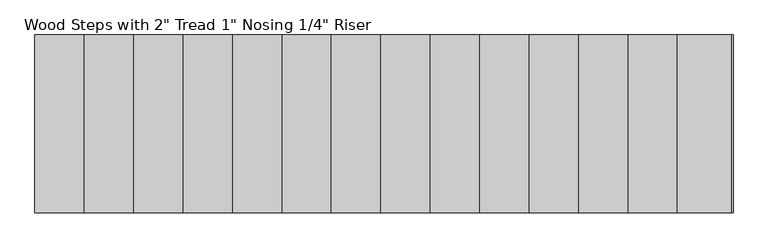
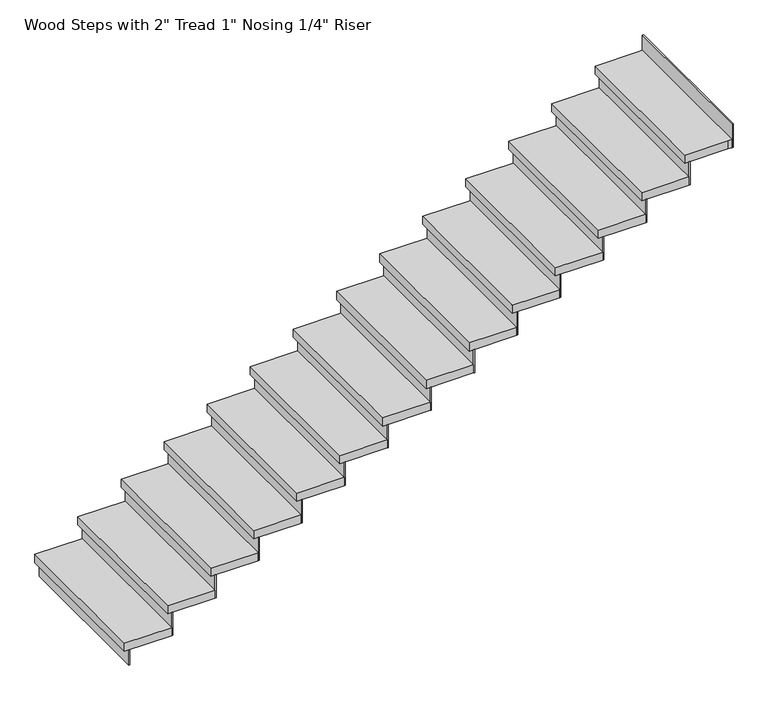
"""IFC4 building model written with IfcOpenShell, lengths in millimetres: stair flight geometry."""

from ifc_helpers import new_model, si_unit, frame, origin, origin_with_axes, place, context, project, spatial, polyline, outline, extrude, source, transform, mapped, element, save


def stair_flight_6c6811b1(model_context):
    return source(origin(), model_context, "Body", "SweptSolid", [
        extrude(outline(polyline([(-36093.92137, 23592.4177722), (-36100.27137, 23592.4177722), (-36100.27137, 24506.8177722), (-36093.92137, 24506.8177722), (-36093.92137, 23592.4177722)])), origin_with_axes(), (0.0, 0.0, 1.0), 94.3428571),
        extrude(outline(polyline([(-35846.27137, 24506.8177722), (-35846.27137, 23592.4177722), (-36125.67137, 23592.4177722), (-36125.67137, 24506.8177722), (-35846.27137, 24506.8177722)])), frame((0.0, 0.0, 94.3428571), z_axis=(0.0, 0.0, 1.0), x_axis=(1.0, 0.0, 0.0)), (0.0, 0.0, 1.0), 50.8),
        extrude(outline(polyline([(-35839.92137, 23592.4177722), (-35846.27137, 23592.4177722), (-35846.27137, 24506.8177722), (-35839.92137, 24506.8177722), (-35839.92137, 23592.4177722)])), frame((0.0, 0.0, 94.3428571), z_axis=(0.0, 0.0, 1.0), x_axis=(1.0, 0.0, 0.0)), (0.0, 0.0, 1.0), 145.1428571),
        extrude(outline(polyline([(-35592.27137, 24506.8177722), (-35592.27137, 23592.4177722), (-35871.67137, 23592.4177722), (-35871.67137, 24506.8177722), (-35592.27137, 24506.8177722)])), frame((0.0, 0.0, 239.4857143), z_axis=(0.0, 0.0, 1.0), x_axis=(1.0, 0.0, 0.0)), (0.0, 0.0, 1.0), 50.8),
        extrude(outline(polyline([(-35585.92137, 23592.4177722), (-35592.27137, 23592.4177722), (-35592.27137, 24506.8177722), (-35585.92137, 24506.8177722), (-35585.92137, 23592.4177722)])), frame((0.0, 0.0, 239.4857143), z_axis=(0.0, 0.0, 1.0), x_axis=(1.0, 0.0, 0.0)), (0.0, 0.0, 1.0), 145.1428571),
        extrude(outline(polyline([(-35338.27137, 24506.8177722), (-35338.27137, 23592.4177722), (-35617.67137, 23592.4177722), (-35617.67137, 24506.8177722), (-35338.27137, 24506.8177722)])), frame((0.0, 0.0, 384.6285714), z_axis=(0.0, 0.0, 1.0), x_axis=(1.0, 0.0, 0.0)), (0.0, 0.0, 1.0), 50.8),
        extrude(outline(polyline([(-35331.92137, 23592.4177722), (-35338.27137, 23592.4177722), (-35338.27137, 24506.8177722), (-35331.92137, 24506.8177722), (-35331.92137, 23592.4177722)])), frame((0.0, 0.0, 384.6285714), z_axis=(0.0, 0.0, 1.0), x_axis=(1.0, 0.0, 0.0)), (0.0, 0.0, 1.0), 145.1428571),
        extrude(outline(polyline([(-35084.27137, 24506.8177722), (-35084.27137, 23592.4177722), (-35363.67137, 23592.4177722), (-35363.67137, 24506.8177722), (-35084.27137, 24506.8177722)])), frame((0.0, 0.0, 529.7714286), z_axis=(0.0, 0.0, 1.0), x_axis=(1.0, 0.0, 0.0)), (0.0, 0.0, 1.0), 50.8),
        extrude(outline(polyline([(-35077.92137, 23592.4177722), (-35084.27137, 23592.4177722), (-35084.27137, 24506.8177722), (-35077.92137, 24506.8177722), (-35077.92137, 23592.4177722)])), frame((0.0, 0.0, 529.7714286), z_axis=(0.0, 0.0, 1.0), x_axis=(1.0, 0.0, 0.0)), (0.0, 0.0, 1.0), 145.1428571),
        extrude(outline(polyline([(-34830.27137, 24506.8177722), (-34830.27137, 23592.4177722), (-35109.67137, 23592.4177722), (-35109.67137, 24506.8177722), (-34830.27137, 24506.8177722)])), frame((0.0, 0.0, 674.9142857), z_axis=(0.0, 0.0, 1.0), x_axis=(1.0, 0.0, 0.0)), (0.0, 0.0, 1.0), 50.8),
        extrude(outline(polyline([(-34823.92137, 23592.4177722), (-34830.27137, 23592.4177722), (-34830.27137, 24506.8177722), (-34823.92137, 24506.8177722), (-34823.92137, 23592.4177722)])), frame((0.0, 0.0, 674.9142857), z_axis=(0.0, 0.0, 1.0), x_axis=(1.0, 0.0, 0.0)), (0.0, 0.0, 1.0), 145.1428571),
        extrude(outline(polyline([(-34576.27137, 24506.8177722), (-34576.27137, 23592.4177722), (-34855.67137, 23592.4177722), (-34855.67137, 24506.8177722), (-34576.27137, 24506.8177722)])), frame((0.0, 0.0, 820.0571429), z_axis=(0.0, 0.0, 1.0), x_axis=(1.0, 0.0, 0.0)), (0.0, 0.0, 1.0), 50.8),
        extrude(outline(polyline([(-34569.92137, 23592.4177722), (-34576.27137, 23592.4177722), (-34576.27137, 24506.8177722), (-34569.92137, 24506.8177722), (-34569.92137, 23592.4177722)])), frame((0.0, 0.0, 820.0571429), z_axis=(0.0, 0.0, 1.0), x_axis=(1.0, 0.0, 0.0)), (0.0, 0.0, 1.0), 145.1428571),
        extrude(outline(polyline([(-34322.27137, 24506.8177722), (-34322.27137, 23592.4177722), (-34601.67137, 23592.4177722), (-34601.67137, 24506.8177722), (-34322.27137, 24506.8177722)])), frame((0.0, 0.0, 965.2), z_axis=(0.0, 0.0, 1.0), x_axis=(1.0, 0.0, 0.0)), (0.0, 0.0, 1.0), 50.8),
        extrude(outline(polyline([(-34315.92137, 23592.4177722), (-34322.27137, 23592.4177722), (-34322.27137, 24506.8177722), (-34315.92137, 24506.8177722), (-34315.92137, 23592.4177722)])), frame((0.0, 0.0, 965.2), z_axis=(0.0, 0.0, 1.0), x_axis=(1.0, 0.0, 0.0)), (0.0, 0.0, 1.0), 145.1428571),
        extrude(outline(polyline([(-34068.27137, 24506.8177722), (-34068.27137, 23592.4177722), (-34347.67137, 23592.4177722), (-34347.67137, 24506.8177722), (-34068.27137, 24506.8177722)])), frame((0.0, 0.0, 1110.3428571), z_axis=(0.0, 0.0, 1.0), x_axis=(1.0, 0.0, 0.0)), (0.0, 0.0, 1.0), 50.8),
        extrude(outline(polyline([(-34061.92137, 23592.4177722), (-34068.27137, 23592.4177722), (-34068.27137, 24506.8177722), (-34061.92137, 24506.8177722), (-34061.92137, 23592.4177722)])), frame((0.0, 0.0, 1110.3428571), z_axis=(0.0, 0.0, 1.0), x_axis=(1.0, 0.0, 0.0)), (0.0, 0.0, 1.0), 145.1428571),
        extrude(outline(polyline([(-33814.27137, 24506.8177722), (-33814.27137, 23592.4177722), (-34093.67137, 23592.4177722), (-34093.67137, 24506.8177722), (-33814.27137, 24506.8177722)])), frame((0.0, 0.0, 1255.4857143), z_axis=(0.0, 0.0, 1.0), x_axis=(1.0, 0.0, 0.0)), (0.0, 0.0, 1.0), 50.8),
        extrude(outline(polyline([(-33807.92137, 23592.4177722), (-33814.27137, 23592.4177722), (-33814.27137, 24506.8177722), (-33807.92137, 24506.8177722), (-33807.92137, 23592.4177722)])), frame((0.0, 0.0, 1255.4857143), z_axis=(0.0, 0.0, 1.0), x_axis=(1.0, 0.0, 0.0)), (0.0, 0.0, 1.0), 145.1428571),
        extrude(outline(polyline([(-33560.27137, 24506.8177722), (-33560.27137, 23592.4177722), (-33839.67137, 23592.4177722), (-33839.67137, 24506.8177722), (-33560.27137, 24506.8177722)])), frame((0.0, 0.0, 1400.6285714), z_axis=(0.0, 0.0, 1.0), x_axis=(1.0, 0.0, 0.0)), (0.0, 0.0, 1.0), 50.8),
        extrude(outline(polyline([(-33553.92137, 23592.4177722), (-33560.27137, 23592.4177722), (-33560.27137, 24506.8177722), (-33553.92137, 24506.8177722), (-33553.92137, 23592.4177722)])), frame((0.0, 0.0, 1400.6285714), z_axis=(0.0, 0.0, 1.0), x_axis=(1.0, 0.0, 0.0)), (0.0, 0.0, 1.0), 145.1428571),
        extrude(outline(polyline([(-33306.27137, 24506.8177722), (-33306.27137, 23592.4177722), (-33585.67137, 23592.4177722), (-33585.67137, 24506.8177722), (-33306.27137, 24506.8177722)])), frame((0.0, 0.0, 1545.7714286), z_axis=(0.0, 0.0, 1.0), x_axis=(1.0, 0.0, 0.0)), (0.0, 0.0, 1.0), 50.8),
        extrude(outline(polyline([(-33299.92137, 23592.4177722), (-33306.27137, 23592.4177722), (-33306.27137, 24506.8177722), (-33299.92137, 24506.8177722), (-33299.92137, 23592.4177722)])), frame((0.0, 0.0, 1545.7714286), z_axis=(0.0, 0.0, 1.0), x_axis=(1.0, 0.0, 0.0)), (0.0, 0.0, 1.0), 145.1428571),
        extrude(outline(polyline([(-33052.27137, 24506.8177722), (-33052.27137, 23592.4177722), (-33331.67137, 23592.4177722), (-33331.67137, 24506.8177722), (-33052.27137, 24506.8177722)])), frame((0.0, 0.0, 1690.9142857), z_axis=(0.0, 0.0, 1.0), x_axis=(1.0, 0.0, 0.0)), (0.0, 0.0, 1.0), 50.8),
        extrude(outline(polyline([(-33045.92137, 23592.4177722), (-33052.27137, 23592.4177722), (-33052.27137, 24506.8177722), (-33045.92137, 24506.8177722), (-33045.92137, 23592.4177722)])), frame((0.0, 0.0, 1690.9142857), z_axis=(0.0, 0.0, 1.0), x_axis=(1.0, 0.0, 0.0)), (0.0, 0.0, 1.0), 145.1428571),
        extrude(outline(polyline([(-32798.27137, 24506.8177722), (-32798.27137, 23592.4177722), (-33077.67137, 23592.4177722), (-33077.67137, 24506.8177722), (-32798.27137, 24506.8177722)])), frame((0.0, 0.0, 1836.0571429), z_axis=(0.0, 0.0, 1.0), x_axis=(1.0, 0.0, 0.0)), (0.0, 0.0, 1.0), 50.8),
        extrude(outline(polyline([(-32537.92137, 23592.4177722), (-32544.27137, 23592.4177722), (-32544.27137, 24506.8177722), (-32537.92137, 24506.8177722), (-32537.92137, 23592.4177722)])), frame((0.0, 0.0, 1981.2), z_axis=(0.0, 0.0, 1.0), x_axis=(1.0, 0.0, 0.0)), (0.0, 0.0, 1.0), 145.1428571),
        extrude(outline(polyline([(-32791.92137, 23592.4177722), (-32798.27137, 23592.4177722), (-32798.27137, 24506.8177722), (-32791.92137, 24506.8177722), (-32791.92137, 23592.4177722)])), frame((0.0, 0.0, 1836.0571429), z_axis=(0.0, 0.0, 1.0), x_axis=(1.0, 0.0, 0.0)), (0.0, 0.0, 1.0), 145.1428571),
        extrude(outline(polyline([(-32544.27137, 24506.8177722), (-32544.27137, 23592.4177722), (-32569.67137, 23592.4177722), (-32823.67137, 23592.4177722), (-32823.67137, 24506.8177722), (-32569.67137, 24506.8177722), (-32544.27137, 24506.8177722)])), frame((0.0, 0.0, 1981.2), z_axis=(0.0, 0.0, 1.0), x_axis=(1.0, 0.0, 0.0)), (0.0, 0.0, 1.0), 50.8),
    ])


if __name__ == "__main__":
    model = new_model("IFC4")
    model_context = context("Model", 3, world=origin())
    ifc_project = project(units=[si_unit("LENGTHUNIT", "METRE", prefix="MILLI")], contexts=[model_context])
    site = spatial("IfcSite", under=ifc_project)
    building = spatial("IfcBuilding", under=site)
    placement = place(None, origin())
    stair_flight_shape = stair_flight_6c6811b1(model_context)
    element("IfcStairFlight", 1, ObjectType="Wood Steps with 2\" Tread 1\" Nosing 1/4\" Riser", at=placement, inside=building, context=model_context, shape_type="MappedRepresentation", body=[
        mapped(stair_flight_shape, transform((0.0, 0.0, 0.0), x_axis=(1.0, 0.0, 0.0), y_axis=(0.0, 1.0, 0.0), z_axis=(0.0, 0.0, 1.0))),
    ])
    save(model, "model.ifc")
